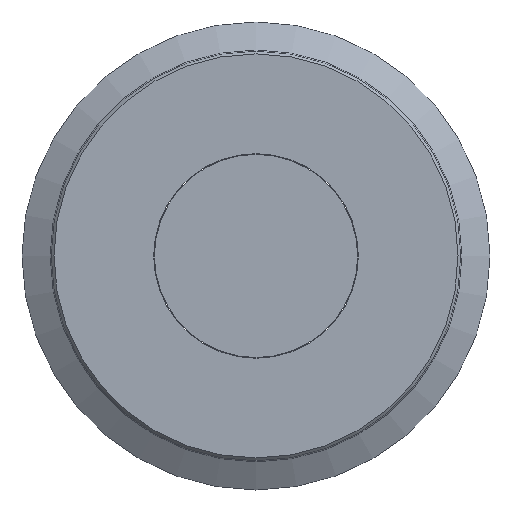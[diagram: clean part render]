
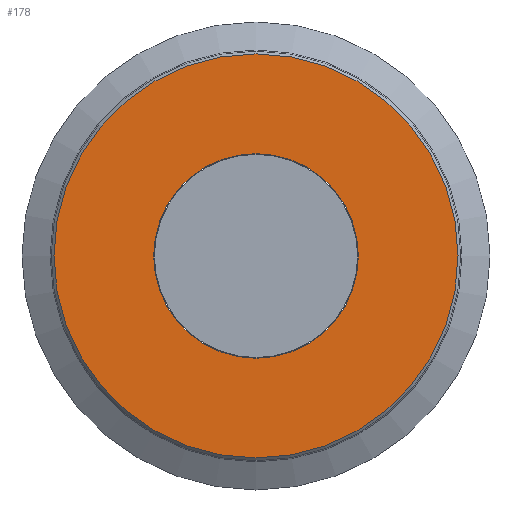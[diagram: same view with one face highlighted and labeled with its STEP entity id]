
A CAD part, top view. The second image highlights one B-rep face of the part: STEP entity #178.
In plain terms, the highlighted planar face has unit normal (0, 0, 1).
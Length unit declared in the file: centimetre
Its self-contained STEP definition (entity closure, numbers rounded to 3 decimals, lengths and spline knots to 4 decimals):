
#23=FACE_BOUND('',#61,.T.);
#42=FACE_OUTER_BOUND('',#60,.T.);
#60=EDGE_LOOP('',(#130));
#61=EDGE_LOOP('',(#131));
#83=CIRCLE('',#198,7.9);
#85=CIRCLE('',#202,4.);
#97=VERTEX_POINT('',#291);
#99=VERTEX_POINT('',#297);
#111=EDGE_CURVE('',#97,#97,#83,.T.);
#113=EDGE_CURVE('',#99,#99,#85,.T.);
#130=ORIENTED_EDGE('',*,*,#111,.F.);
#131=ORIENTED_EDGE('',*,*,#113,.F.);
#152=PLANE('',#201);
#178=ADVANCED_FACE('',(#42,#23),#152,.T.);
#198=AXIS2_PLACEMENT_3D('',#292,#236,#237);
#201=AXIS2_PLACEMENT_3D('',#296,#242,#243);
#202=AXIS2_PLACEMENT_3D('',#298,#244,#245);
#236=DIRECTION('center_axis',(0.,0.,
-1.));
#237=DIRECTION('ref_axis',(0.,-1.,0.));
#242=DIRECTION('center_axis',(0.,0.,
1.));
#243=DIRECTION('ref_axis',(0.,1.,0.));
#244=DIRECTION('center_axis',(0.,0.,
1.));
#245=DIRECTION('ref_axis',(-1.,0.,0.));
#291=CARTESIAN_POINT('',(0.,7.9,0.8));
#292=CARTESIAN_POINT('Origin',(0.,0.,
0.8));
#296=CARTESIAN_POINT('Origin',(0.,4.,0.8));
#297=CARTESIAN_POINT('',(0.,4.,0.8));
#298=CARTESIAN_POINT('Origin',(0.,0.,
0.8));
